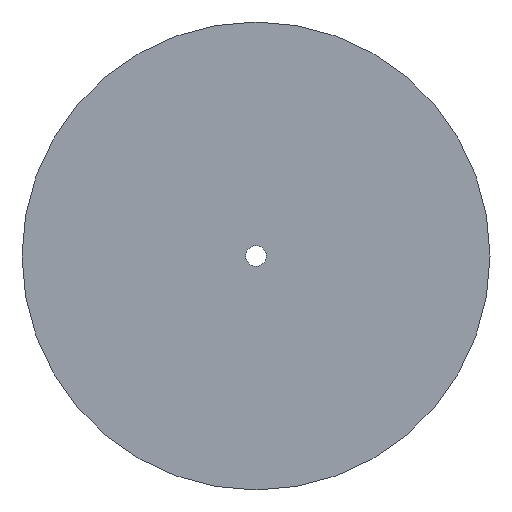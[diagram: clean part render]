
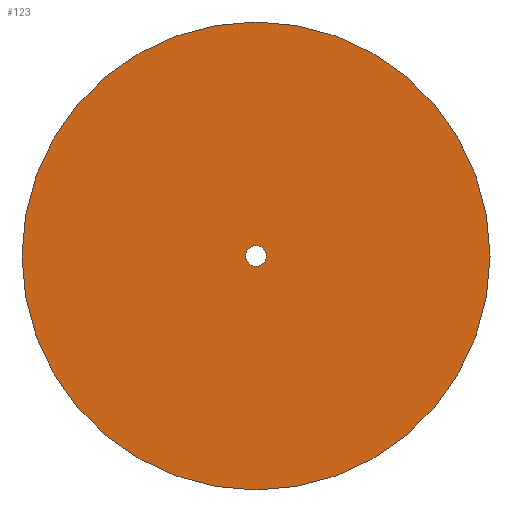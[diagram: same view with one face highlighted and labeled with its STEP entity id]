
A CAD part, top view. The second image highlights one B-rep face of the part: STEP entity #123.
In plain terms, the highlighted planar face has unit normal (0, 0, 1).
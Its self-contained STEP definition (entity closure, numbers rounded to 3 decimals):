
#62=CARTESIAN_POINT('Vertex',(-2.852,1.558,0.)) ;
#76=CARTESIAN_POINT('Vertex',(2.852,-1.558,0.)) ;
#79=CARTESIAN_POINT('Axis2P3D Location',(0.,0.,0.)) ;
#91=CARTESIAN_POINT('Axis2P3D Location',(0.,0.,0.)) ;
#96=CARTESIAN_POINT('Axis2P3D Location',(0.,0.,0.)) ;
#100=CARTESIAN_POINT('Vertex',(73.,0.,0.)) ;
#102=CARTESIAN_POINT('Vertex',(-73.,0.,0.)) ;
#105=CARTESIAN_POINT('Axis2P3D Location',(0.,0.,0.)) ;
#114=CARTESIAN_POINT('Axis2P3D Location',(0.,0.,0.)) ;
#80=DIRECTION('Axis2P3D Direction',(0.,-0.,-1.)) ;
#92=DIRECTION('Axis2P3D Direction',(0.,0.,1.)) ;
#93=DIRECTION('Axis2P3D XDirection',(1.,0.,0.)) ;
#97=DIRECTION('Axis2P3D Direction',(0.,0.,1.)) ;
#106=DIRECTION('Axis2P3D Direction',(0.,0.,1.)) ;
#115=DIRECTION('Axis2P3D Direction',(0.,0.,1.)) ;
#81=AXIS2_PLACEMENT_3D('Circle Axis2P3D',#79,#80,$) ;
#94=AXIS2_PLACEMENT_3D('Plane Axis2P3D',#91,#92,#93) ;
#98=AXIS2_PLACEMENT_3D('Circle Axis2P3D',#96,#97,$) ;
#107=AXIS2_PLACEMENT_3D('Circle Axis2P3D',#105,#106,$) ;
#116=AXIS2_PLACEMENT_3D('Circle Axis2P3D',#114,#115,$) ;
#111=ORIENTED_EDGE('',*,*,#104,.F.) ;
#112=ORIENTED_EDGE('',*,*,#109,.F.) ;
#120=ORIENTED_EDGE('',*,*,#118,.F.) ;
#121=ORIENTED_EDGE('',*,*,#83,.F.) ;
#122=FACE_BOUND('',#119,.T.) ;
#123=ADVANCED_FACE('PartBody',(#113,#122),#95,.T.) ;
#82=CIRCLE('generated circle',#81,3.25) ;
#99=CIRCLE('generated circle',#98,73.) ;
#108=CIRCLE('generated circle',#107,73.) ;
#117=CIRCLE('generated circle',#116,3.25) ;
#83=EDGE_CURVE('',#77,#63,#82,.F.) ;
#104=EDGE_CURVE('',#101,#103,#99,.F.) ;
#109=EDGE_CURVE('',#103,#101,#108,.F.) ;
#118=EDGE_CURVE('',#63,#77,#117,.T.) ;
#110=EDGE_LOOP('',(#111,#112)) ;
#119=EDGE_LOOP('',(#120,#121)) ;
#113=FACE_OUTER_BOUND('',#110,.T.) ;
#95=PLANE('',#94) ;
#63=VERTEX_POINT('',#62) ;
#77=VERTEX_POINT('',#76) ;
#101=VERTEX_POINT('',#100) ;
#103=VERTEX_POINT('',#102) ;
